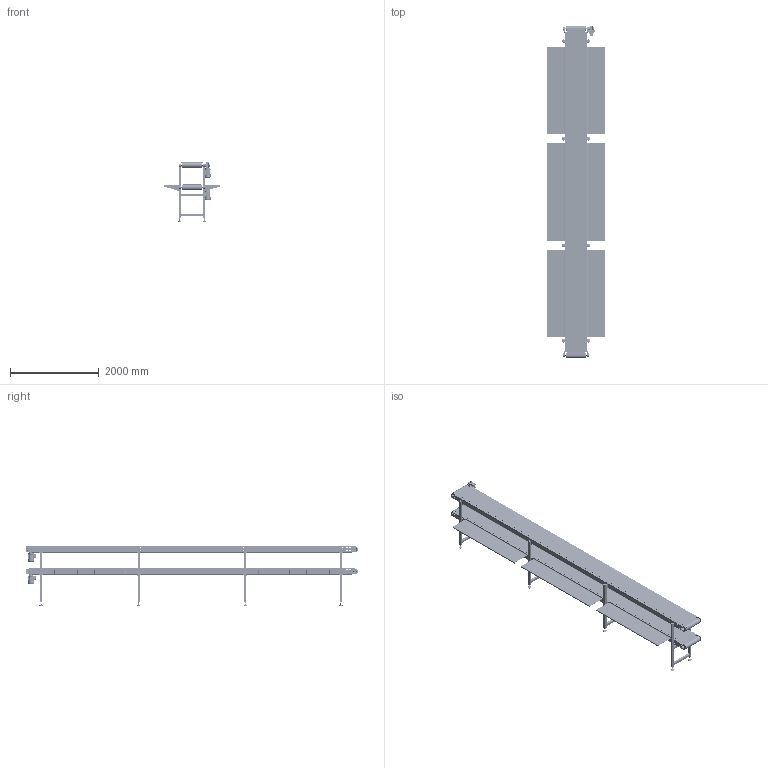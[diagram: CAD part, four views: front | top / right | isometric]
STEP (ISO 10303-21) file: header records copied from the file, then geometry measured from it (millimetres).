
FILE_DESCRIPTION(/* description */ (''),/* implementation_level */ '2;1');
FILE_NAME(/* name */ 'beltconveyor_a133_w500_l7400.stp',/* time_stamp */ '2025-01-14T22:52:09+08:00',/* author */ (''),/* organization */ (''),/* preprocessor_version */ 'ST-DEVELOPER v16.7',/* originating_system */ 'SIEMENS PLM Software NX 12.0',/* authorisation */ '');
FILE_SCHEMA (('AUTOMOTIVE_DESIGN { 1 0 10303 214 3 1 1 1 }'));
Products named in the file (58): Foot Adjuster v1(Mirror)_Défaut245875; 91828A420_18-8 Stainless Steel Hex Nut(Mirror)_Défau
t; Foot Adjuster v1_Défaut; 91828A420_18-8 Stainless Steel Hex Nut_Défaut; Component6(Mirror)_Défaut; Hinges v1(Mirror) (2)(Mirror)_Défaut; Bracket Table v1(Mirror)(Mirror) (1)(Mirror)_Défaut; Bracket Table v1(Mirror)(Mirror)_Défaut; Component11_Défaut; Table1000 v1_Défaut; Component17(Mirror) (1)_Défaut; Tail Pulley v1_Défaut; Component19(Mirror)(Mirror)_Défaut; Component41_Défaut; Frame Tail v1_Défaut; Plate Tail v1_Défaut; Bracket Table v1(Mirror)(Mirror) (1)_Défaut; Bracket Table v1(Mirror)(Mirror) (2)_Défaut; Frame Head v1_Défaut; Motor v1_Défaut; Hinges v1(Mirror) (1)(Mirror) (1)_Défaut; Pillow Block v1(Mirror) (1)_Défaut; Hinges v1(Mirror)_Défaut; Pillow Block v1(Mirror)_Défaut; Head Pulley v1_Défaut; Pillow Block v1_Défaut; Hinges v1(Mirror) (3)_Défaut; Frame Middle v1_Défaut; Bracket Table v1(Mirror)(Mirror)(Mirror)_Défaut; Belt 400 v1_Défaut; Plate Support v1_Défaut; Plate Head Pulley v1(Mirror)_Défaut; Hinges v1(Mirror) (1)_Défaut; Component17_Défaut; Plate Head Pulley v1_Défaut; Bracket Table v1(Mirror)_Défaut; Bracket Table v1(Mirror) (1)_Défaut; Component19(Mirror)_Défaut; Bracket Table v1_Défaut; Pillow Block v1(Mirror)(Mirror)_Défaut ...
Assembly tree (99 placements, depth 3):
  beltconveyor_a133_w500_l7400
    Return Roller v1_Défaut  x14
    Hinges v1(Mirror) (1)(Mirror)_Défaut
    Component19_Défaut  x3
    Hinges v1_Défaut  x2
    Foot Adjuster v1_Défaut236673
      91828A420_18-8 Stainless Steel Hex Nut_Défaut  x2
      Foot Adjuster v1_Défaut
    Hinges v1(Mirror) (1)(Mirror)(Mirror)_Défaut
    Bracket Table v1(Mirror)(Mirror)(Mirror)(Mirror)_Défaut
    Component12_Défaut  x4
    Bracket Table v1(Mirror)(Mirror)(Mirror) (1)_Défaut
    Component17(Mirror)(Mirror)_Défaut
    Plate Support v1(Mirror)_Défaut  x2
    Hinges v1(Mirror) (2)_Défaut
    Plate Tail v1(Mirror)_Défaut  x2
    Component17(Mirror)_Défaut
    Component6_Défaut
    Component19(Mirror) (1)_Défaut  x3
    Pillow Block v1(Mirror)(Mirror)_Défaut  x2
    Bracket Table v1_Défaut  x2
    Component19(Mirror)_Défaut
    Bracket Table v1(Mirror) (1)_Défaut
    Bracket Table v1(Mirror)_Défaut  x2
    Plate Head Pulley v1_Défaut  x2
    Component17_Défaut
    Hinges v1(Mirror) (1)_Défaut
    Plate Head Pulley v1(Mirror)_Défaut  x2
    Plate Support v1_Défaut  x2
    Belt 400 v1_Défaut  x2
    Bracket Table v1(Mirror)(Mirror)(Mirror)_Défaut
    Frame Middle v1_Défaut  x2
    Hinges v1(Mirror) (3)_Défaut
    Pillow Block v1_Défaut  x2
    Head Pulley v1_Défaut  x2
    Pillow Block v1(Mirror)_Défaut  x2
    Hinges v1(Mirror)_Défaut
    Pillow Block v1(Mirror) (1)_Défaut  x2
    Hinges v1(Mirror) (1)(Mirror) (1)_Défaut
    Motor v1_Défaut  x2
    Frame Head v1_Défaut  x2
    Bracket Table v1(Mirror)(Mirror) (2)_Défaut
    Foot Adjuster v1(Mirror)_Défaut
      91828A420_18-8 Stainless Steel Hex Nut(Mirror)_Défau
t  x2
      Foot Adjuster v1(Mirror)_Défaut245875
    Bracket Table v1(Mirror)(Mirror) (1)_Défaut
    Plate Tail v1_Défaut  x2
    Frame Tail v1_Défaut  x2
    Component41_Défaut
    Component19(Mirror)(Mirror)_Défaut
    Tail Pulley v1_Défaut  x2
    Component17(Mirror) (1)_Défaut
    Table1000 v1_Défaut
    Component11_Défaut
    Bracket Table v1(Mirror)(Mirror)_Défaut
    Bracket Table v1(Mirror)(Mirror) (1)(Mirror)_Défaut
    Hinges v1(Mirror) (2)(Mirror)_Défaut
    Component6(Mirror)_Défaut
Bounding box: 1306 x 7475.94 x 1338.84 mm (x, y, z)
Volume: 131020235.9 mm3; surface area: 72911037.5 mm2
Topology: 314 solids, 375 shells, 16303 faces, 44083 edges, 28798 vertices
Faces by surface type: cylinder 6868, plane 6328, cone 1515, extrusion 738, sphere 568, bspline 148, torus 138
Entity records: 373469 total; most frequent: CARTESIAN_POINT 145350, ORIENTED_EDGE 47696, DIRECTION 43073, EDGE_CURVE 23848, VERTEX_POINT 15632, AXIS2_PLACEMENT_3D 15274, VECTOR 12525, LINE 12156
